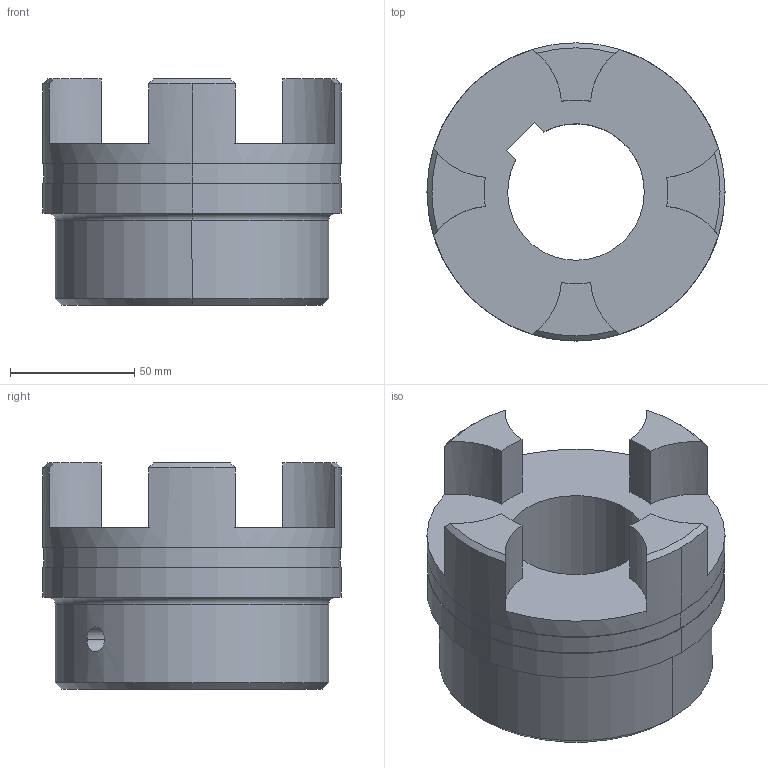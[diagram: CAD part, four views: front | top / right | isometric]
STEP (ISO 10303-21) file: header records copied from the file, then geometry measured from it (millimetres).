
FILE_DESCRIPTION((''),'2;1');
FILE_NAME('020555005500_INT','2021-12-16T09:59:52',('W.Rathmann'),(''),'CREO PARAMETRIC BY PTC INC, 2020044','CREO PARAMETRIC BY PTC INC, 2020044','');
FILE_SCHEMA(('CONFIG_CONTROL_DESIGN'));
Length unit declared in the file: millimetre
Products named in the file (1): 020555005500_INT
Bounding box: 120 x 120 x 91 mm (x, y, z)
Volume: 553445.2 mm3; surface area: 62662.5 mm2
Topology: 1 solids, 1 shells, 43 faces, 117 edges, 86 vertices
Faces by surface type: cylinder 23, plane 12, cone 6, torus 2
Entity records: 1470 total; most frequent: CARTESIAN_POINT 299, DIRECTION 257, ORIENTED_EDGE 220, EDGE_CURVE 110, AXIS2_PLACEMENT_3D 106, VERTEX_POINT 72, CIRCLE 62, EDGE_LOOP 50
